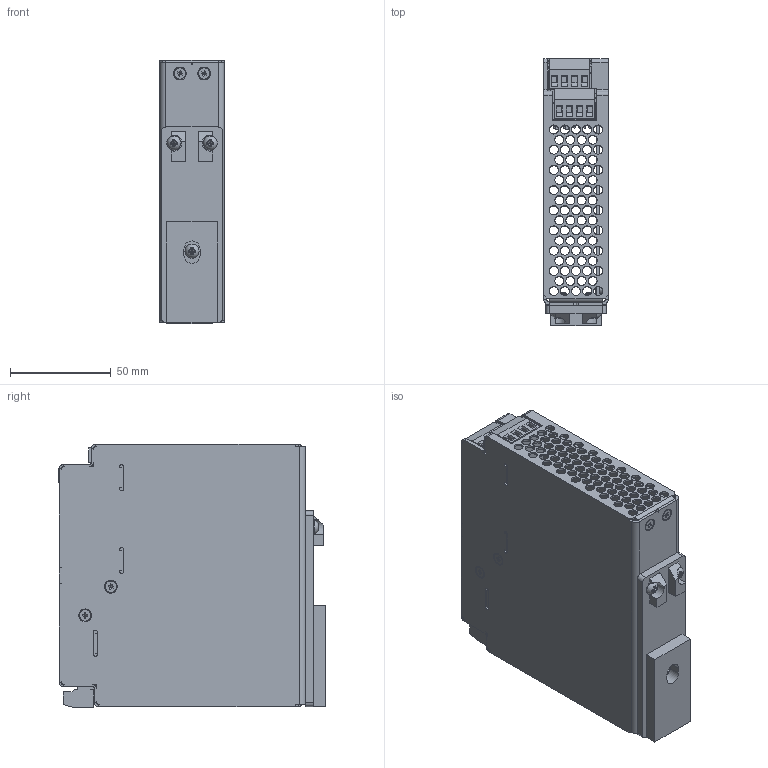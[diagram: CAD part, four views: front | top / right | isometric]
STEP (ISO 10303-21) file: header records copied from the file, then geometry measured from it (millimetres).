
FILE_DESCRIPTION(('STEP AP214'), '1');
FILE_NAME('栖闉罻', '', ('UNSPECIFIED'), ('UNSPECIFIED'), 'ASCON STEP Converter 1.6', 'ASCON Math Kernel', '');
FILE_SCHEMA(('AUTOMOTIVE_DESIGN { 1 0 10303 214 3 1 1}'));
Length unit declared in the file: millimetre
Products named in the file (2): 櫛ち.436234.007
Assembly tree (1 placements, depth 2):
  (unnamed)
    櫛ち.436234.007
Bounding box: 32 x 132.3 x 130.45 mm (x, y, z)
Volume: 124806.7 mm3; surface area: 135422.3 mm2
Topology: 1 solids, 1 shells, 1735 faces, 4571 edges, 2922 vertices
Faces by surface type: plane 1192, cylinder 368, bspline 122, cone 50, sphere 3
Full cylindrical faces by diameter (mm): 0.586 x2, 1.5 x7, 2.459 x4, 3 x6, 3.175 x2, 3.5 x11, 4 x12, 4.2 x2, 4.5 x163, 5 x4, 5.6 x8, 6 x4, 7 x3, 7.9 x3
Entity records: 78953 total; most frequent: CARTESIAN_POINT 22655, ORIENTED_EDGE 8596, DIRECTION 8018, EDGE_CURVE 4298, LINE 3020, VECTOR 3020, VERTEX_POINT 2922, EDGE_LOOP 2524
